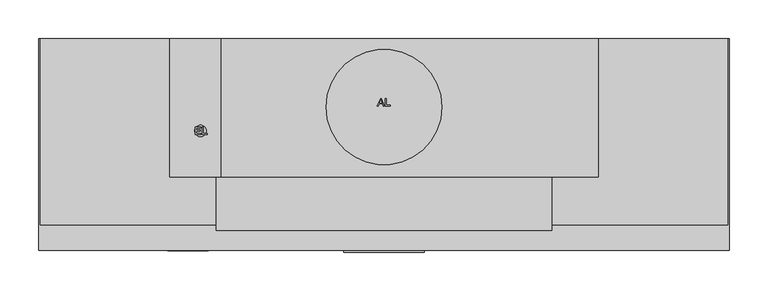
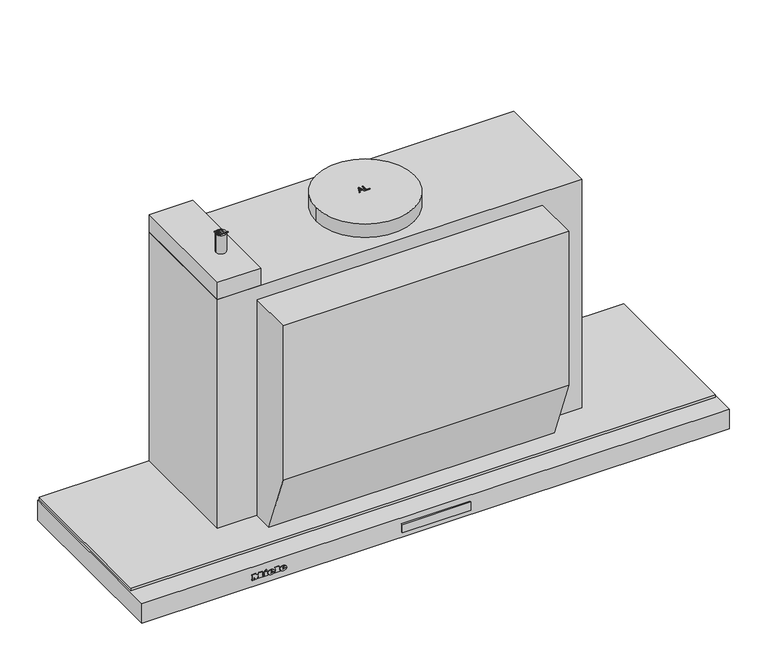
"""IFC4 building model written with IfcOpenShell, lengths in millimetres: proxy geometry, 11878400_PAC_DAS2920_EDST : 28S2920S_PAC_11878400_DAS2920_EDST."""

from ifc_helpers import new_model, si_unit, point, frame, frame_2d, origin, origin_with_axes, place, context, project, spatial, polyline, circle_curve, ellipse_curve, trimmed, segment, composite_curve, outline, extrude, faceted_brep, source, transform, mapped, element, save
from ifc_brep_helpers import plane_surface, cylinder_surface, revolved_surface, extruded_surface, advanced_brep


def specialty_equipment_cd73f514(model_context):
    return source(origin(), model_context, "Body", "SolidModel", [
        extrude(outline(polyline([(52.0, -275.0), (52.0, -277.3978707), (-52.0, -277.3978707), (-52.0, -275.0), (52.0, -275.0)])), frame((0.0, 0.0, -23.0389651), z_axis=(0.0, 0.0, 1.0), x_axis=(1.0, 0.0, 0.0)), (0.0, 0.0, 1.0), 13.3389155),
        advanced_brep(
        [(-233.4590019, -276.0, -18.7681017), (-233.4590019, -276.0, -17.8894017), (-227.6387019, -276.0, -17.8894017), (-237.7655019, -276.0, -17.8894017), (-235.3730019, -276.0, -20.8300017), (-227.7866019, -276.0, -18.7681017), (-230.4140019, -276.0, -18.7681017), (-232.4846019, -276.0, -19.7425017), (-233.4590019, -276.0, -16.7758017), (-233.4590019, -276.0, -15.8275017), (-231.9713019, -276.0, -15.8275017), (-231.9713019, -276.0, -16.7758017), (-233.4590019, -275.0, -18.7681017), (-232.4846019, -275.0, -19.7425017), (-230.4140019, -275.0, -18.7681017), (-227.7866019, -275.0, -18.7681017), (-235.3730019, -275.0, -20.8300017), (-237.7655019, -275.0, -17.8894017), (-227.6387019, -275.0, -17.8894017), (-233.4590019, -275.0, -17.8894017), (-233.4590019, -275.0, -16.7758017), (-231.9713019, -275.0, -16.7758017), (-231.9713019, -275.0, -15.8275017), (-233.4590019, -275.0, -15.8275017)],
        [
            (0, 1),
            (1, 2),
            (2, 3, ellipse_curve(frame((-232.7021019, -276.0, -17.8894017), z_axis=(0.0, -1.0, 0.0), x_axis=(-1.0, 0.0, 0.0)), 5.0634, 4.1847)),
            (3, 4, circle_curve(frame((-234.3985544, -276.0, -17.5936017), z_axis=(0.0, -1.0, 0.0), x_axis=(0.0, 0.0, -1.0)), 3.3799161)),
            (4, 5, circle_curve(frame((-232.8034638, -276.0, -15.2968017), z_axis=(0.0, -1.0, 0.0), x_axis=(0.0, 0.0, -1.0)), 6.1007236)),
            (5, 6),
            (6, 7, circle_curve(frame((-232.0593254, -276.0, -17.9590017), z_axis=(0.0, 1.0, 0.0), x_axis=(0.0, 0.0, -1.0)), 1.8335027)),
            (7, 0, circle_curve(frame((-232.4846019, -276.0, -18.7681017), z_axis=(0.0, 1.0, 0.0), x_axis=(0.0, 0.0, -1.0)), 0.9744)),
            (8, 9),
            (9, 10, circle_curve(frame((-232.7151519, -276.0, -15.8275017), z_axis=(0.0, 1.0, 0.0), x_axis=(0.0, 0.0, -1.0)), 0.74385)),
            (10, 11),
            (11, 8),
            (12, 13, circle_curve(frame((-232.4846019, -275.0, -18.7681017), z_axis=(0.0, -1.0, 0.0), x_axis=(0.0, 0.0, -1.0)), 0.9744)),
            (13, 14, circle_curve(frame((-232.0593254, -275.0, -17.9590017), z_axis=(0.0, -1.0, 0.0), x_axis=(0.0, 0.0, -1.0)), 1.8335027)),
            (14, 15),
            (15, 16, circle_curve(frame((-232.8034638, -275.0, -15.2968017), z_axis=(0.0, 1.0, 0.0), x_axis=(0.0, 0.0, -1.0)), 6.1007236)),
            (16, 17, circle_curve(frame((-234.3985544, -275.0, -17.5936017), z_axis=(0.0, 1.0, 0.0), x_axis=(0.0, 0.0, -1.0)), 3.3799161)),
            (17, 18, ellipse_curve(frame((-232.7021019, -275.0, -17.8894017), z_axis=(0.0, 1.0, 0.0), x_axis=(-1.0, 0.0, 0.0)), 5.0634, 4.1847)),
            (18, 19),
            (19, 12),
            (20, 21),
            (21, 22),
            (22, 23, circle_curve(frame((-232.7151519, -275.0, -15.8275017), z_axis=(0.0, -1.0, 0.0), x_axis=(0.0, 0.0, -1.0)), 0.74385)),
            (23, 20),
            (0, 12),
            (19, 1),
            (18, 2),
            (5, 15),
            (14, 6),
            (17, 3),
            (13, 7),
            (16, 4),
            (8, 20),
            (23, 9),
            (22, 10),
            (21, 11),
        ],
        [
            plane_surface(frame((-233.4590019, -276.0, -17.8894017), z_axis=(0.0, -1.0, 0.0), x_axis=(0.0, 0.0, 1.0))),
            plane_surface(frame((-233.4590019, -275.0, -17.8894017), z_axis=(0.0, 1.0, 0.0), x_axis=(0.0, 0.0, -1.0))),
            plane_surface(frame((-233.4590019, -276.0, -18.7681017), z_axis=(1.0, 0.0, 0.0), x_axis=(0.0, 1.0, 0.0))),
            plane_surface(frame((-233.4590019, -276.0, -17.8894017), z_axis=(0.0, 0.0, -1.0), x_axis=(0.0, 1.0, 0.0))),
            plane_surface(frame((-227.7866019, -276.0, -18.7681017), z_axis=(0.0, 0.0, 1.0), x_axis=(0.0, 1.0, 0.0))),
            extruded_surface(trimmed(ellipse_curve(frame((-232.7021019, -274.0, -17.8894017), z_axis=(0.0, -1.0, 0.0), x_axis=(-1.0, 0.0, 0.0)), 5.0634, 4.1847), [point((-227.6387019, -274.0, -17.8894017))], [point((-237.7655019, -274.0, -17.8894017))], True, "CARTESIAN"), (0.0, -1.0, 0.0), 1.0),
            revolved_surface(polyline([(-232.0593254, -275.0, -19.792504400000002), (-232.0593254, -276.0, -19.792504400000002)]), (-232.0593254, -275.0, -17.9590017), (0.0, 1.0, 0.0)),
            revolved_surface(polyline([(-232.4846019, -275.0, -19.7425017), (-232.4846019, -276.0, -19.7425017)]), (-232.4846019, -275.0, -18.7681017), (0.0, 1.0, 0.0)),
            cylinder_surface(frame((-234.3985544, -275.0, -17.5936017), z_axis=(0.0, -1.0, 0.0), x_axis=(0.0, 0.0, -1.0)), 3.3799161),
            cylinder_surface(frame((-232.8034638, -275.0, -15.2968017), z_axis=(0.0, -1.0, 0.0), x_axis=(0.0, 0.0, -1.0)), 6.1007236),
            plane_surface(frame((-233.4590019, -276.0, -16.7758017), z_axis=(1.0, 0.0, 0.0), x_axis=(0.0, 1.0, 0.0))),
            revolved_surface(polyline([(-232.7151519, -275.0, -16.571351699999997), (-232.7151519, -276.0, -16.571351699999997)]), (-232.7151519, -275.0, -15.8275017), (0.0, 1.0, 0.0)),
            plane_surface(frame((-231.9713019, -276.0, -15.8275017), z_axis=(-1.0, 0.0, 0.0), x_axis=(0.0, 1.0, 0.0))),
            plane_surface(frame((-231.9713019, -276.0, -16.7758017), z_axis=(0.0, 0.0, 1.0), x_axis=(0.0, 1.0, 0.0))),
        ],
        [
            (0, [[1, 2, 3, 4, 5, 6, 7, 8], [9, 10, 11, 12]]),
            (1, [[13, 14, 15, 16, 17, 18, 19, 20], [21, 22, 23, 24]]),
            (2, [[-1, 25, -20, 26]]),
            (3, [[-2, -26, -19, 27]]),
            (4, [[-6, 28, -15, 29]]),
            (5, [[-3, -27, -18, 30]]),
            (6, [[-7, -29, -14, 31]]),
            (7, [[-8, -31, -13, -25]]),
            (8, [[-4, -30, -17, 32]]),
            (9, [[-5, -32, -16, -28]]),
            (10, [[-9, 33, -24, 34]]),
            (11, [[-10, -34, -23, 35]]),
            (12, [[-11, -35, -22, 36]]),
            (13, [[-12, -36, -21, -33]]),
        ],
    ),
        advanced_brep(
        [(-251.6159019, -276.0, -18.7681017), (-251.6159019, -276.0, -17.8894017), (-245.7956019, -276.0, -17.8894017), (-255.9224019, -276.0, -17.8894017), (-253.5299019, -276.0, -20.8300017), (-245.9435019, -276.0, -18.7681017), (-248.5709019, -276.0, -18.7681017), (-250.6415019, -276.0, -19.7425017), (-251.6159019, -276.0, -16.7758017), (-251.6159019, -276.0, -15.8275017), (-250.1282019, -276.0, -15.8275017), (-250.1282019, -276.0, -16.7758017), (-251.6159019, -275.0, -18.7681017), (-250.6415019, -275.0, -19.7425017), (-248.5709019, -275.0, -18.7681017), (-245.9435019, -275.0, -18.7681017), (-253.5299019, -275.0, -20.8300017), (-255.9224019, -275.0, -17.8894017), (-245.7956019, -275.0, -17.8894017), (-251.6159019, -275.0, -17.8894017), (-251.6159019, -275.0, -16.7758017), (-250.1282019, -275.0, -16.7758017), (-250.1282019, -275.0, -15.8275017), (-251.6159019, -275.0, -15.8275017)],
        [
            (0, 1),
            (1, 2),
            (2, 3, ellipse_curve(frame((-250.8590019, -276.0, -17.8894017), z_axis=(0.0, -1.0, 0.0), x_axis=(-1.0, 0.0, 0.0)), 5.0634, 4.1847)),
            (3, 4, circle_curve(frame((-252.5554544, -276.0, -17.5936017), z_axis=(0.0, -1.0, 0.0), x_axis=(0.0, 0.0, -1.0)), 3.3799161)),
            (4, 5, circle_curve(frame((-250.9603638, -276.0, -15.2968017), z_axis=(0.0, -1.0, 0.0), x_axis=(0.0, 0.0, -1.0)), 6.1007236)),
            (5, 6),
            (6, 7, circle_curve(frame((-250.2162254, -276.0, -17.9590017), z_axis=(0.0, 1.0, 0.0), x_axis=(0.0, 0.0, -1.0)), 1.8335027)),
            (7, 0, circle_curve(frame((-250.6415019, -276.0, -18.7681017), z_axis=(0.0, 1.0, 0.0), x_axis=(0.0, 0.0, -1.0)), 0.9744)),
            (8, 9),
            (9, 10, circle_curve(frame((-250.8720519, -276.0, -15.8275017), z_axis=(0.0, 1.0, 0.0), x_axis=(0.0, 0.0, -1.0)), 0.74385)),
            (10, 11),
            (11, 8),
            (12, 13, circle_curve(frame((-250.6415019, -275.0, -18.7681017), z_axis=(0.0, -1.0, 0.0), x_axis=(0.0, 0.0, -1.0)), 0.9744)),
            (13, 14, circle_curve(frame((-250.2162254, -275.0, -17.9590017), z_axis=(0.0, -1.0, 0.0), x_axis=(0.0, 0.0, -1.0)), 1.8335027)),
            (14, 15),
            (15, 16, circle_curve(frame((-250.9603638, -275.0, -15.2968017), z_axis=(0.0, 1.0, 0.0), x_axis=(0.0, 0.0, -1.0)), 6.1007236)),
            (16, 17, circle_curve(frame((-252.5554544, -275.0, -17.5936017), z_axis=(0.0, 1.0, 0.0), x_axis=(0.0, 0.0, -1.0)), 3.3799161)),
            (17, 18, ellipse_curve(frame((-250.8590019, -275.0, -17.8894017), z_axis=(0.0, 1.0, 0.0), x_axis=(-1.0, 0.0, 0.0)), 5.0634, 4.1847)),
            (18, 19),
            (19, 12),
            (20, 21),
            (21, 22),
            (22, 23, circle_curve(frame((-250.8720519, -275.0, -15.8275017), z_axis=(0.0, -1.0, 0.0), x_axis=(0.0, 0.0, -1.0)), 0.74385)),
            (23, 20),
            (0, 12),
            (19, 1),
            (18, 2),
            (5, 15),
            (14, 6),
            (17, 3),
            (13, 7),
            (16, 4),
            (8, 20),
            (23, 9),
            (22, 10),
            (21, 11),
        ],
        [
            plane_surface(frame((-251.6159019, -276.0, -17.8894017), z_axis=(0.0, -1.0, 0.0), x_axis=(0.0, 0.0, 1.0))),
            plane_surface(frame((-251.6159019, -275.0, -17.8894017), z_axis=(0.0, 1.0, 0.0), x_axis=(0.0, 0.0, -1.0))),
            plane_surface(frame((-251.6159019, -276.0, -18.7681017), z_axis=(1.0, 0.0, 0.0), x_axis=(0.0, 1.0, 0.0))),
            plane_surface(frame((-251.6159019, -276.0, -17.8894017), z_axis=(0.0, 0.0, -1.0), x_axis=(0.0, 1.0, 0.0))),
            plane_surface(frame((-245.9435019, -276.0, -18.7681017), z_axis=(0.0, 0.0, 1.0), x_axis=(0.0, 1.0, 0.0))),
            extruded_surface(trimmed(ellipse_curve(frame((-250.8590019, -274.0, -17.8894017), z_axis=(0.0, -1.0, 0.0), x_axis=(-1.0, 0.0, 0.0)), 5.0634, 4.1847), [point((-245.7956019, -274.0, -17.8894017))], [point((-255.9224019, -274.0, -17.8894017))], True, "CARTESIAN"), (0.0, -1.0, 0.0), 1.0),
            revolved_surface(polyline([(-250.2162254, -275.0, -19.792504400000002), (-250.2162254, -276.0, -19.792504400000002)]), (-250.2162254, -275.0, -17.9590017), (0.0, 1.0, 0.0)),
            revolved_surface(polyline([(-250.6415019, -275.0, -19.7425017), (-250.6415019, -276.0, -19.7425017)]), (-250.6415019, -275.0, -18.7681017), (0.0, 1.0, 0.0)),
            cylinder_surface(frame((-252.5554544, -275.0, -17.5936017), z_axis=(0.0, -1.0, 0.0), x_axis=(0.0, 0.0, -1.0)), 3.3799161),
            cylinder_surface(frame((-250.9603638, -275.0, -15.2968017), z_axis=(0.0, -1.0, 0.0), x_axis=(0.0, 0.0, -1.0)), 6.1007236),
            plane_surface(frame((-251.6159019, -276.0, -16.7758017), z_axis=(1.0, 0.0, 0.0), x_axis=(0.0, 1.0, 0.0))),
            revolved_surface(polyline([(-250.8720519, -275.0, -16.571351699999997), (-250.8720519, -276.0, -16.571351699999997)]), (-250.8720519, -275.0, -15.8275017), (0.0, 1.0, 0.0)),
            plane_surface(frame((-250.1282019, -276.0, -15.8275017), z_axis=(-1.0, 0.0, 0.0), x_axis=(0.0, 1.0, 0.0))),
            plane_surface(frame((-250.1282019, -276.0, -16.7758017), z_axis=(0.0, 0.0, 1.0), x_axis=(0.0, 1.0, 0.0))),
        ],
        [
            (0, [[1, 2, 3, 4, 5, 6, 7, 8], [9, 10, 11, 12]]),
            (1, [[13, 14, 15, 16, 17, 18, 19, 20], [21, 22, 23, 24]]),
            (2, [[-1, 25, -20, 26]]),
            (3, [[-2, -26, -19, 27]]),
            (4, [[-6, 28, -15, 29]]),
            (5, [[-3, -27, -18, 30]]),
            (6, [[-7, -29, -14, 31]]),
            (7, [[-8, -31, -13, -25]]),
            (8, [[-4, -30, -17, 32]]),
            (9, [[-5, -32, -16, -28]]),
            (10, [[-9, 33, -24, 34]]),
            (11, [[-10, -34, -23, 35]]),
            (12, [[-11, -35, -22, 36]]),
            (13, [[-12, -36, -21, -33]]),
        ],
    ),
        extrude(outline(polyline([(-12.6433017, -261.1250019), (-14.0527017, -260.4638019), (-12.6781017, -257.5145019), (-11.2687017, -258.1670019), (-12.6433017, -261.1250019)])), frame((0.0, -276.0, 0.0), z_axis=(0.0, 1.0, 0.0), x_axis=(0.0, 0.0, 1.0)), (0.0, 0.0, 1.0), 1.0),
        extrude(outline(polyline([(-14.2441017, -263.2739019), (-15.8014017, -263.2739019), (-15.8014017, -262.2386019), (-19.3684017, -262.2386019), (-19.3684017, -263.2739019), (-20.8300017, -263.2739019), (-20.8300017, -256.4096019), (-19.3684017, -256.4096019), (-19.3684017, -257.4188019), (-14.2441017, -257.4188019), (-14.2441017, -263.2739019)])), frame((0.0, -276.0, 0.0), z_axis=(0.0, 1.0, 0.0), x_axis=(0.0, 0.0, 1.0)), (0.0, 0.0, 1.0), 1.0),
        extrude(outline(polyline([(-13.5481017, -245.3084019), (-13.5481017, -244.2644019), (-19.3684017, -244.2644019), (-19.3684017, -245.3084019), (-20.8300017, -245.3084019), (-20.8300017, -238.2527019), (-19.3684017, -238.2527019), (-19.3684017, -239.3228019), (-12.1300017, -239.3228019), (-12.1300017, -245.3084019), (-13.5481017, -245.3084019)])), frame((0.0, -276.0, 0.0), z_axis=(0.0, 1.0, 0.0), x_axis=(0.0, 0.0, 1.0)), (0.0, 0.0, 1.0), 1.0),
        extrude(outline(polyline([(-13.5481017, -280.6130019), (-13.5481017, -279.5603019), (-19.3684017, -279.5603019), (-19.3684017, -280.6130019), (-20.8300017, -280.6130019), (-20.8300017, -276.7850019), (-19.3684017, -276.7850019), (-19.3684017, -277.8290019), (-15.6719769, -277.8290019), (-20.8300017, -273.9401019), (-15.5772794, -270.0338019), (-19.3684017, -270.0338019), (-19.3684017, -271.1039019), (-20.8300017, -271.1039019), (-20.8300017, -264.1613019), (-19.3684017, -264.1613019), (-19.3684017, -265.2662019), (-13.5481017, -265.2662019), (-13.5481017, -264.1613019), (-12.1300017, -264.1613019), (-12.1300017, -269.4596019), (-15.3925017, -272.0000019), (-12.1300017, -274.5491019), (-12.1300017, -280.6130019), (-13.5481017, -280.6130019)])), frame((0.0, -276.0, 0.0), z_axis=(0.0, 1.0, 0.0), x_axis=(0.0, 0.0, 1.0)), (0.0, 0.0, 1.0), 1.0),
        extrude(outline(polyline([(278.0, -180.0), (-278.0, -180.0), (-278.0, 0.0), (278.0, 0.0), (278.0, -180.0)])), frame((0.0, 0.0, 4.0), z_axis=(0.0, 0.0, 1.0), x_axis=(1.0, 0.0, 0.0)), (0.0, 0.0, 1.0), 369.0),
        extrude(outline(composite_curve([segment(trimmed(circle_curve(frame_2d((0.0, -89.0)), 75.0), [point((-75.0, -89.0))], [point((75.0, -89.0))], False, "CARTESIAN"), True, "CONTINUOUS"), segment(trimmed(circle_curve(frame_2d((0.0, -89.0)), 75.0), [point((75.0, -89.0))], [point((-75.0, -89.0))], False, "CARTESIAN"), True, "CONTINUOUS")], self_intersect=False)), frame((0.0, 0.0, 373.0), z_axis=(0.0, 0.0, 1.0), x_axis=(1.0, 0.0, 0.0)), (0.0, 0.0, 1.0), 22.0),
        extrude(outline(polyline([(-278.0, -180.0), (-278.0, 0.0), (-212.0, 0.0), (-212.0, -180.0), (-278.0, -180.0)])), frame((0.0, 0.0, 373.0), z_axis=(0.0, 0.0, 1.0), x_axis=(1.0, 0.0, 0.0)), (0.0, 0.0, 1.0), 28.0),
        extrude(outline(polyline([(-180.0, 352.0), (-180.0, 4.0), (-211.7966838, 4.0), (-249.5, 103.2192532), (-249.5, 352.0), (-180.0, 352.0)])), frame((-217.7156244, 0.0, 0.0), z_axis=(1.0, 0.0, 0.0), x_axis=(0.0, 1.0, 0.0)), (0.0, 0.0, 1.0), 435.4312488),
        extrude(outline(polyline([(-8.5446725, -87.975609), (-4.5347587, -77.929978), (-3.4654484, -77.929978), (0.5420128, -87.975609), (-0.7848149, -87.975609), (-1.9326067, -84.8363493), (-6.0725055, -84.8363493), (-7.2202973, -87.975609), (-8.5446725, -87.975609)]), holes=[polyline([(-5.6114267, -83.5806455), (-2.391233, -83.5806455), (-3.2986752, -81.110931), (-4.0025561, -79.1856819), (-4.6279555, -80.8951069), (-5.6114267, -83.5806455)])]), frame((0.0, 0.0, 395.0), z_axis=(0.0, 0.0, 1.0), x_axis=(1.0, 0.0, 0.0)), (0.0, 0.0, 1.0), 1.0),
        extrude(outline(polyline([(1.8835558, -87.975609), (1.8835558, -77.929978), (3.1392597, -77.929978), (3.1392597, -86.7199052), (8.1620752, -86.7199052), (8.1620752, -87.975609), (1.8835558, -87.975609)])), frame((0.0, 0.0, 395.0), z_axis=(0.0, 0.0, 1.0), x_axis=(1.0, 0.0, 0.0)), (0.0, 0.0, 1.0), 1.0),
        extrude(outline(polyline([(446.0, 0.0), (446.0, -242.0), (-446.0, -242.0), (-446.0, 0.0), (446.0, 0.0)])), origin_with_axes(), (0.0, 0.0, 1.0), 4.0),
        extrude(outline(polyline([(120.0, -19.25), (120.0, -31.75), (-120.0, -31.75), (-120.0, -19.25), (120.0, -19.25)])), frame((0.0, 0.0, -23.0), z_axis=(0.0, 0.0, 1.0), x_axis=(1.0, 0.0, 0.0)), (0.0, 0.0, 1.0), 1.785426),
        extrude(outline(polyline([(331.0813184, -268.0), (331.0813184, -246.0), (399.0, -246.0), (399.0, -268.0), (331.0813184, -268.0)])), frame((0.0, 0.0, -33.3019181), z_axis=(0.0, 0.0, 1.0), x_axis=(1.0, 0.0, 0.0)), (0.0, 0.0, 1.0), 1.3019181),
        extrude(outline(polyline([(-399.0, -268.0), (-399.0, -246.0), (-331.0, -246.0), (-331.0, -268.0), (-399.0, -268.0)])), frame((0.0, 0.0, -33.3019181), z_axis=(0.0, 0.0, 1.0), x_axis=(1.0, 0.0, 0.0)), (0.0, 0.0, 1.0), 1.3019181),
        extrude(outline(composite_curve([segment(trimmed(circle_curve(frame_2d((-238.0, -120.0)), 7.5), [point((-230.5, -120.0))], [point((-245.5, -120.0))], False, "CARTESIAN"), True, "CONTINUOUS"), segment(trimmed(circle_curve(frame_2d((-238.0, -120.0)), 7.5), [point((-245.5, -120.0))], [point((-230.5, -120.0))], False, "CARTESIAN"), True, "CONTINUOUS")], self_intersect=False)), frame((0.0, 0.0, 401.0), z_axis=(0.0, 0.0, 1.0), x_axis=(1.0, 0.0, 0.0)), (0.0, 0.0, 1.0), 30.0),
        extrude(outline(polyline([(-235.640443, -124.9184735), (-235.640443, -114.8728425), (-234.3847391, -114.8728425), (-234.3847391, -123.6627696), (-229.3619236, -123.6627696), (-229.3619236, -124.9184735), (-235.640443, -124.9184735)])), frame((0.0, 0.0, 431.0), z_axis=(0.0, 0.0, 1.0), x_axis=(1.0, 0.0, 0.0)), (0.0, 0.0, 1.0), 1.0),
        extrude(outline(polyline([(-244.9012591, -124.9184735), (-244.9012591, -114.8728425), (-237.6809618, -114.8728425), (-237.6809618, -116.1285464), (-243.6455552, -116.1285464), (-243.6455552, -119.1108431), (-237.9948878, -119.1108431), (-237.9948878, -120.366547), (-243.6455552, -120.366547), (-243.6455552, -123.6627696), (-237.5239988, -123.6627696), (-237.5239988, -124.9184735), (-244.9012591, -124.9184735)])), frame((0.0, 0.0, 431.0), z_axis=(0.0, 0.0, 1.0), x_axis=(1.0, 0.0, 0.0)), (0.0, 0.0, 1.0), 1.0),
        extrude(outline(polyline([(-448.0, 0.0), (-413.0, 0.0), (-413.0, -242.0), (413.0, -242.0), (413.0, 0.0), (448.0, 0.0), (448.0, -275.0), (-448.0, -275.0), (-448.0, 0.0)])), frame((0.0, 0.0, -32.0), z_axis=(0.0, 0.0, 1.0), x_axis=(1.0, 0.0, 0.0)), (0.0, 0.0, 1.0), 32.0),
        faceted_brep([(-126.0, -39.0, -24.0), (-126.0, -39.0, 0.0), (126.0, -39.0, 0.0), (126.0, -39.0, -24.0), (-126.0, -12.0, -24.0), (-126.0, -12.0, 0.0), (126.0, -12.0, -24.0), (126.0, -12.0, 0.0), (-413.0, -242.0, 0.0), (-413.0, 0.0, 0.0), (-413.0, 0.0, -24.0), (-413.0, -52.0, -24.0), (-413.0, -52.0, -25.0), (-413.0, -242.0, -25.0), (413.0, -52.0, -25.0), (413.0, -242.0, -25.0), (413.0, -52.0, -24.0), (413.0, 0.0, -24.0), (413.0, 0.0, 0.0), (413.0, -242.0, 0.0)], [[[0, 1, 2, 3]], [[4, 5, 1, 0]], [[6, 7, 5, 4]], [[8, 9, 10, 11, 12, 13]], [[13, 12, 14, 15]], [[16, 11, 10, 17], [6, 4, 0, 3]], [[11, 16, 14, 12]], [[18, 9, 8, 19], [5, 7, 2, 1]], [[9, 18, 17, 10]], [[19, 8, 13, 15]], [[18, 19, 15, 14, 16, 17]], [[7, 6, 3, 2]]]),
        extrude(outline(polyline([(126.0, -12.0), (126.0, -39.0), (-126.0, -39.0), (-126.0, -12.0), (126.0, -12.0)]), holes=[polyline([(120.0, -19.25), (-120.0, -19.25), (-120.0, -31.75), (120.0, -31.75), (120.0, -19.25)])]), frame((0.0, 0.0, -21.214574), z_axis=(0.0, 0.0, 1.0), x_axis=(1.0, 0.0, 0.0)), (0.0, 0.0, 1.0), 21.214574),
    ])


if __name__ == "__main__":
    model = new_model("IFC4")
    model_context = context("Model", 3, world=origin())
    ifc_project = project(units=[si_unit("LENGTHUNIT", "METRE", prefix="MILLI")], contexts=[model_context])
    site = spatial("IfcSite", under=ifc_project)
    building = spatial("IfcBuilding", under=site)
    placement = place(None, origin())
    specialty_equipment_shape = specialty_equipment_cd73f514(model_context)
    element("IfcBuildingElementProxy", 1, Name="11878400_PAC_DAS2920_EDST : 28S2920S_PAC_11878400_DAS2920_EDST", ObjectType="11878400_PAC_DAS2920_EDST : 28S2920S_PAC_11878400_DAS2920_EDST", at=placement, inside=building, context=model_context, shape_type="MappedRepresentation", body=[
        mapped(specialty_equipment_shape, transform((0.0, 0.0, 0.0), x_axis=(1.0, 0.0, 0.0), y_axis=(0.0, 1.0, 0.0), z_axis=(0.0, 0.0, 1.0))),
    ])
    save(model, "model.ifc")
